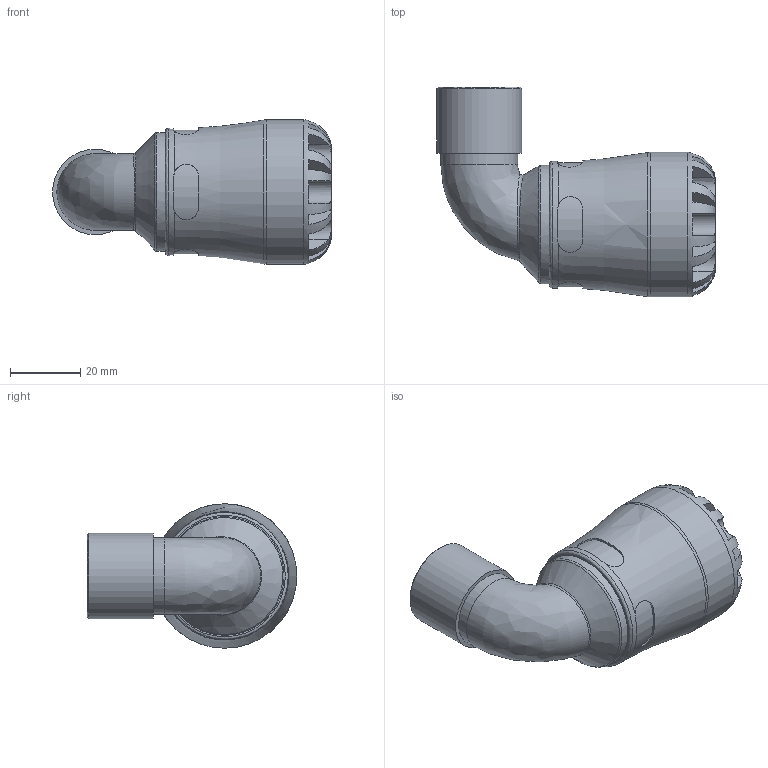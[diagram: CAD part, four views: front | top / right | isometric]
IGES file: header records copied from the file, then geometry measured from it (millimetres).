
Global section: file name: 101500020005_191500020005.ipt; native system: Autodesk Inventor 2015; preprocessor: unknown; author: KIM; date: 20170730.115208; units: millimetre
Bounding box: 79.11 x 59.5 x 41 mm (x, y, z)
Volume: 49099.5 mm3; surface area: 17864.1 mm2
Topology: 1 solids, 1 shells, 110 faces, 287 edges, 183 vertices
Faces by surface type: plane 62, revolution 26, cylinder 17, bspline 4, cone 1
Full cylindrical faces by diameter (mm): 21.798 x1, 24.22 x1, 33.62 x1, 36.08 x1, 41 x1
